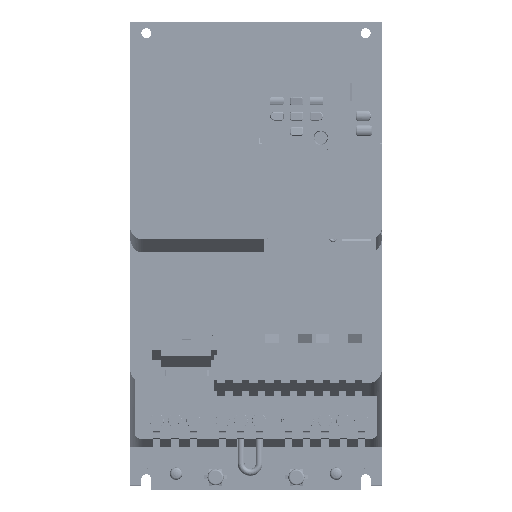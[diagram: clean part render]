
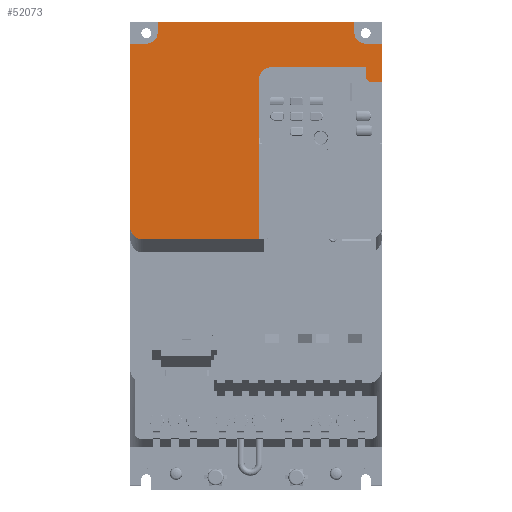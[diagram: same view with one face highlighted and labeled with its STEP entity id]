
A CAD part, top view. The second image highlights one B-rep face of the part: STEP entity #52073.
In plain terms, the highlighted planar face has unit normal (0, 0, 1).
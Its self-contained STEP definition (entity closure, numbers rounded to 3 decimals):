
#4835=CARTESIAN_POINT('',(-63.,146.1,145.));
#4836=DIRECTION('',(0.,0.,1.));
#4837=DIRECTION('',(-1.,0.,0.));
#4838=AXIS2_PLACEMENT_3D('',#4835,#4836,#4837);
#4840=DIRECTION('',(0.,-1.,0.));
#4841=VECTOR('',#4840,101.9);
#4842=CARTESIAN_POINT('',(-70.,248.,145.));
#4843=LINE('',#4842,#4841);
#4844=DIRECTION('',(1.,0.,0.));
#4845=VECTOR('',#4844,9.306);
#4846=CARTESIAN_POINT('',(-70.,248.,145.));
#4847=LINE('',#4846,#4845);
#4848=DIRECTION('',(-0.052,-0.999,0.));
#4849=VECTOR('',#4848,6.323);
#4850=CARTESIAN_POINT('',(-54.371,260.,145.));
#4851=LINE('',#4850,#4849);
#4852=DIRECTION('',(-1.,0.,0.));
#4853=VECTOR('',#4852,108.742);
#4854=CARTESIAN_POINT('',(54.371,260.,145.));
#4855=LINE('',#4854,#4853);
#4856=DIRECTION('',(0.052,-0.999,0.));
#4857=VECTOR('',#4856,6.323);
#4858=CARTESIAN_POINT('',(54.371,260.,145.));
#4859=LINE('',#4858,#4857);
#4860=DIRECTION('',(-1.,0.,0.));
#4861=VECTOR('',#4860,9.306);
#4862=CARTESIAN_POINT('',(70.,248.,145.));
#4863=LINE('',#4862,#4861);
#4864=DIRECTION('',(0.,1.,0.));
#4865=VECTOR('',#4864,21.568);
#4866=CARTESIAN_POINT('',(70.,226.432,145.));
#4867=LINE('',#4866,#4865);
#4868=DIRECTION('',(-0.999,0.052,0.));
#4869=VECTOR('',#4868,6.152);
#4870=CARTESIAN_POINT('',(70.,226.432,145.));
#4871=LINE('',#4870,#4869);
#4872=CARTESIAN_POINT('',(64.,229.5,145.));
#4873=DIRECTION('',(0.,0.,1.));
#4874=DIRECTION('',(-1.,0.,0.));
#4875=AXIS2_PLACEMENT_3D('',#4872,#4873,#4874);
#4877=DIRECTION('',(0.,1.,0.));
#4878=VECTOR('',#4877,5.5);
#4879=CARTESIAN_POINT('',(61.25,229.5,145.));
#4880=LINE('',#4879,#4878);
#4881=DIRECTION('',(-1.,0.,0.));
#4882=VECTOR('',#4881,52.25);
#4883=CARTESIAN_POINT('',(61.25,235.,145.));
#4884=LINE('',#4883,#4882);
#4885=DIRECTION('',(0.,1.,0.));
#4886=VECTOR('',#4885,88.4);
#4887=CARTESIAN_POINT('',(1.5,139.1,145.));
#4888=LINE('',#4887,#4886);
#4889=DIRECTION('',(1.,0.,0.));
#4890=VECTOR('',#4889,64.5);
#4891=CARTESIAN_POINT('',(-63.,139.1,145.));
#4892=LINE('',#4891,#4890);
#10510=CARTESIAN_POINT('',(60.694,254.,145.));
#10511=DIRECTION('',(0.,0.,-1.));
#10512=DIRECTION('',(0.,-1.,0.));
#10513=AXIS2_PLACEMENT_3D('',#10510,#10511,#10512);
#12629=CARTESIAN_POINT('',(-60.694,254.,145.));
#12630=DIRECTION('',(0.,0.,-1.));
#12631=DIRECTION('',(0.999,-0.052,0.));
#12632=AXIS2_PLACEMENT_3D('',#12629,#12630,#12631);
#21296=CARTESIAN_POINT('',(9.,227.5,145.));
#21297=DIRECTION('',(0.,0.,-1.));
#21298=DIRECTION('',(-1.,0.,0.));
#21299=AXIS2_PLACEMENT_3D('',#21296,#21297,#21298);
#35479=CARTESIAN_POINT('',(54.371,260.,145.));
#35480=CARTESIAN_POINT('',(-54.371,260.,145.));
#35481=VERTEX_POINT('',#35479);
#35482=VERTEX_POINT('',#35480);
#35483=CARTESIAN_POINT('',(54.702,253.686,145.));
#35484=VERTEX_POINT('',#35483);
#35485=CARTESIAN_POINT('',(70.,248.,145.));
#35486=CARTESIAN_POINT('',(60.694,248.,145.));
#35487=VERTEX_POINT('',#35485);
#35488=VERTEX_POINT('',#35486);
#35489=CARTESIAN_POINT('',(-70.,248.,145.));
#35490=CARTESIAN_POINT('',(-60.694,248.,145.));
#35491=VERTEX_POINT('',#35489);
#35492=VERTEX_POINT('',#35490);
#35493=CARTESIAN_POINT('',(-54.702,253.686,145.));
#35494=VERTEX_POINT('',#35493);
#35503=CARTESIAN_POINT('',(1.5,139.1,145.));
#35505=VERTEX_POINT('',#35503);
#35507=CARTESIAN_POINT('',(70.,226.432,145.));
#35508=VERTEX_POINT('',#35507);
#35511=CARTESIAN_POINT('',(61.25,235.,145.));
#35513=VERTEX_POINT('',#35511);
#35544=CARTESIAN_POINT('',(9.,235.,145.));
#35546=VERTEX_POINT('',#35544);
#35549=CARTESIAN_POINT('',(1.5,227.5,145.));
#35550=VERTEX_POINT('',#35549);
#35551=CARTESIAN_POINT('',(61.25,229.5,145.));
#35552=CARTESIAN_POINT('',(63.856,226.754,145.));
#35553=VERTEX_POINT('',#35551);
#35554=VERTEX_POINT('',#35552);
#43441=CARTESIAN_POINT('',(-70.,146.1,145.));
#43442=CARTESIAN_POINT('',(-63.,139.1,145.));
#43443=VERTEX_POINT('',#43441);
#43444=VERTEX_POINT('',#43442);
#52037=CARTESIAN_POINT('',(0.,130.,145.));
#52038=DIRECTION('',(0.,0.,1.));
#52039=DIRECTION('',(1.,0.,0.));
#52040=AXIS2_PLACEMENT_3D('',#52037,#52038,#52039);
#52041=PLANE('',#52040);
#52042=ORIENTED_EDGE('',*,*,#52021,.F.);
#52043=ORIENTED_EDGE('',*,*,#49095,.F.);
#52045=ORIENTED_EDGE('',*,*,#52044,.T.);
#52047=ORIENTED_EDGE('',*,*,#52046,.F.);
#52049=ORIENTED_EDGE('',*,*,#52048,.F.);
#52051=ORIENTED_EDGE('',*,*,#52050,.F.);
#52053=ORIENTED_EDGE('',*,*,#52052,.T.);
#52055=ORIENTED_EDGE('',*,*,#52054,.F.);
#52057=ORIENTED_EDGE('',*,*,#52056,.F.);
#52058=ORIENTED_EDGE('',*,*,#47367,.F.);
#52060=ORIENTED_EDGE('',*,*,#52059,.T.);
#52062=ORIENTED_EDGE('',*,*,#52061,.F.);
#52064=ORIENTED_EDGE('',*,*,#52063,.T.);
#52066=ORIENTED_EDGE('',*,*,#52065,.T.);
#52068=ORIENTED_EDGE('',*,*,#52067,.F.);
#52069=ORIENTED_EDGE('',*,*,#51979,.F.);
#52070=ORIENTED_EDGE('',*,*,#52001,.F.);
#52071=EDGE_LOOP('',(#52042,#52043,#52045,#52047,#52049,#52051,#52053,#52055,
#52057,#52058,#52060,#52062,#52064,#52066,#52068,#52069,#52070));
#52072=FACE_OUTER_BOUND('',#52071,.F.);
#4839=CIRCLE('',#4838,7.);
#4876=CIRCLE('',#4875,2.75);
#10514=CIRCLE('',#10513,6.);
#12633=CIRCLE('',#12632,6.);
#21300=CIRCLE('',#21299,7.5);
#47367=EDGE_CURVE('',#35508,#35487,#4867,.T.);
#49095=EDGE_CURVE('',#35491,#43443,#4843,.T.);
#51979=EDGE_CURVE('',#35505,#35550,#4888,.T.);
#52001=EDGE_CURVE('',#43444,#35505,#4892,.T.);
#52021=EDGE_CURVE('',#43443,#43444,#4839,.T.);
#52044=EDGE_CURVE('',#35491,#35492,#4847,.T.);
#52046=EDGE_CURVE('',#35494,#35492,#12633,.T.);
#52048=EDGE_CURVE('',#35482,#35494,#4851,.T.);
#52050=EDGE_CURVE('',#35481,#35482,#4855,.T.);
#52052=EDGE_CURVE('',#35481,#35484,#4859,.T.);
#52054=EDGE_CURVE('',#35488,#35484,#10514,.T.);
#52056=EDGE_CURVE('',#35487,#35488,#4863,.T.);
#52059=EDGE_CURVE('',#35508,#35554,#4871,.T.);
#52061=EDGE_CURVE('',#35553,#35554,#4876,.T.);
#52063=EDGE_CURVE('',#35553,#35513,#4880,.T.);
#52065=EDGE_CURVE('',#35513,#35546,#4884,.T.);
#52067=EDGE_CURVE('',#35550,#35546,#21300,.T.);
#52073=ADVANCED_FACE('',(#52072),#52041,.T.);
